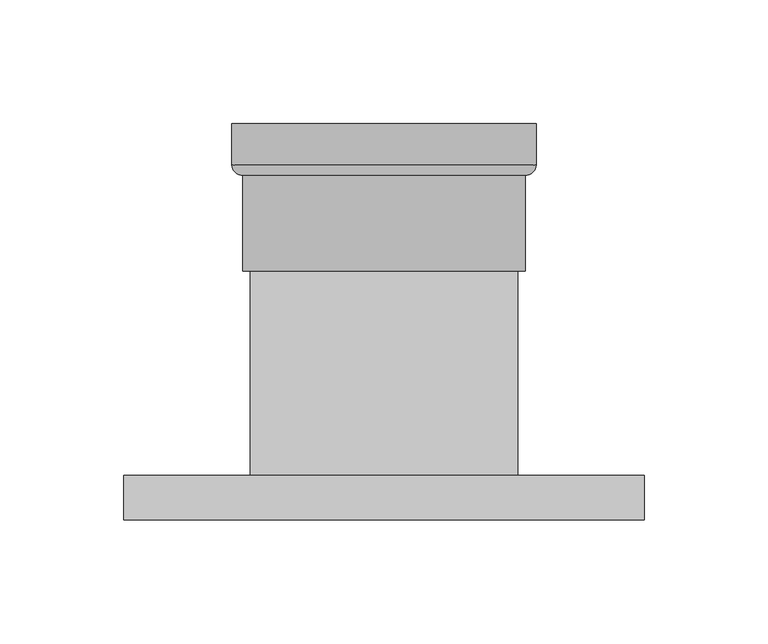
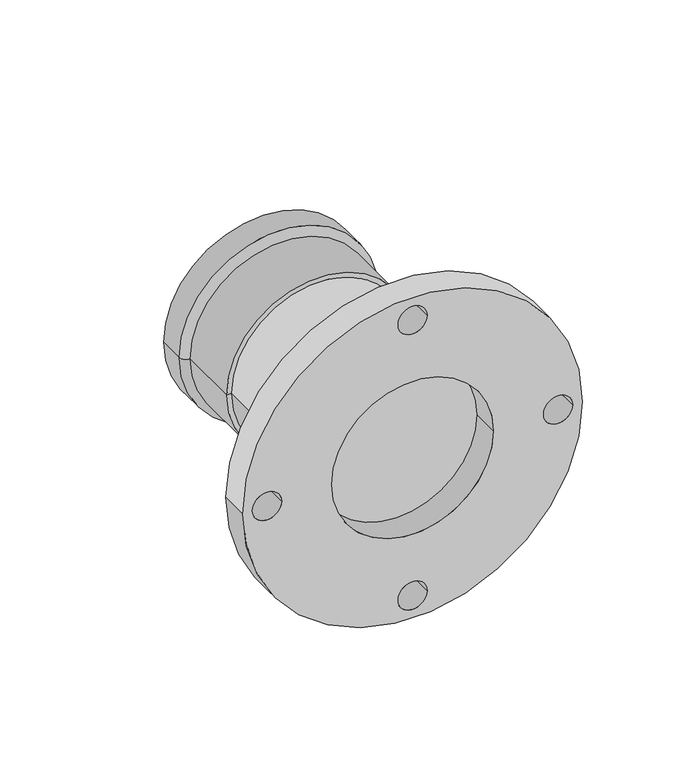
"""IFC4 building model written with IfcOpenShell, lengths in millimetres: pipe fitting geometry, VALTEC_VTi.980.I_Соединитель с переходом на фланец нержавеющая сталь : VTi.980.I."""

import ifcopenshell
import ifcopenshell.guid

model = None  # the IFC model being written
_history = None  # IfcOwnerHistory: only IFC2X3 demands one
_inside = {}  # id of a spatial element -> (the spatial element, [elements in it])
_under = {}  # id of a project, library or spatial element -> (it, [spatial elements below it])
_declared = {}  # id of a project -> (the project, [libraries it declares])
_typed = {}  # id of a type object -> (the type object, [elements of that type])
_made_of = {}  # id of a material, layer set ... -> (it, [elements and type objects made of it])


def new_model(schema):
    """Start an empty IFC model of exactly this schema.

    Asked for "IFC4X3", IfcOpenShell would pick the latest addendum, in which some entities
    have other attributes; the version numbers below select the first issue.
    IFC2X3 requires an IfcOwnerHistory on every rooted entity: one is made here for all.
    """
    global model, _history
    if schema == "IFC4X3":
        model = ifcopenshell.file(schema_version=(4, 3, 0, 0))
    else:
        model = ifcopenshell.file(schema=schema)
    _inside.clear()
    _under.clear()
    _declared.clear()
    _typed.clear()
    _made_of.clear()
    _history = None
    if model.schema == "IFC2X3":
        org = make("IfcOrganization", Name="unknown")
        user = make(
            "IfcPersonAndOrganization",
            ThePerson=make("IfcPerson", FamilyName="unknown"),
            TheOrganization=org,
        )
        app = make(
            "IfcApplication",
            ApplicationDeveloper=org,
            Version="unknown",
            ApplicationFullName="unknown",
            ApplicationIdentifier="unknown",
        )
        _history = make(
            "IfcOwnerHistory",
            OwningUser=user,
            OwningApplication=app,
            ChangeAction="ADDED",
            CreationDate=0,
        )
    return model


def make(cls, **values):
    """One entity of the class cls with the attributes given. An attribute that is None is left unset."""
    return model.create_entity(
        cls, **{name: value for name, value in values.items() if value is not None}
    )


def rooted(cls, **values):
    """An entity with a GlobalId (a new one), such as an element, a storey or a relation."""
    return make(cls, GlobalId=ifcopenshell.guid.new(), OwnerHistory=_history, **values)


def si_unit(unit_type, name, prefix=None):
    """IfcSIUnit, for example si_unit("LENGTHUNIT", "METRE", prefix="MILLI")."""
    return make("IfcSIUnit", UnitType=unit_type, Prefix=prefix, Name=name)


def assignment(units):
    """IfcUnitAssignment: the units of a project."""
    return None if units is None else make("IfcUnitAssignment", Units=units)


def point(xyz):
    """IfcCartesianPoint."""
    return None if xyz is None else make("IfcCartesianPoint", Coordinates=xyz)


def direction(xyz):
    """IfcDirection."""
    return None if xyz is None else make("IfcDirection", DirectionRatios=xyz)


def frame(location, z_axis=None, x_axis=None):
    """IfcAxis2Placement3D, a coordinate frame: its origin and axes. An axis left out is left unset."""
    return make(
        "IfcAxis2Placement3D",
        Location=point(location),
        Axis=direction(z_axis),
        RefDirection=direction(x_axis),
    )


def frame_2d(location, x_axis=None):
    """IfcAxis2Placement2D, a coordinate frame in the plane: its origin and x axis."""
    return make(
        "IfcAxis2Placement2D", Location=point(location), RefDirection=direction(x_axis)
    )


def origin():
    """The frame at (0, 0, 0) with its axes left unset."""
    return frame((0.0, 0.0, 0.0))


def origin_2d():
    """The frame at (0, 0) in the plane with its x axis left unset."""
    return frame_2d((0.0, 0.0))


def place(relative_to, where):
    """IfcLocalPlacement: puts the frame where relative to a parent placement (None: the world)."""
    return make(
        "IfcLocalPlacement", PlacementRelTo=relative_to, RelativePlacement=where
    )


def context(
    kind, dimensions, precision=None, world=None, true_north=None, identifier=None
):
    """IfcGeometricRepresentationContext, for example the 3D "Model" context."""
    return make(
        "IfcGeometricRepresentationContext",
        ContextIdentifier=identifier,
        ContextType=kind,
        CoordinateSpaceDimension=dimensions,
        Precision=precision,
        WorldCoordinateSystem=world,
        TrueNorth=true_north,
    )


def project(units=None, contexts=None):
    """IfcProject with its units and contexts."""
    return rooted(
        "IfcProject",
        Name="project",
        RepresentationContexts=contexts,
        UnitsInContext=assignment(units),
    )


def spatial(cls, under=None, at=None, **own):
    """A site, building, storey or space (cls), placed at a placement, below another one or the project."""
    s = rooted(cls, ObjectPlacement=at, **own)
    if under is not None:
        _under.setdefault(under.id(), (under, []))[1].append(s)
    return s


def polyline(points):
    """IfcPolyline through the points."""
    return make("IfcPolyline", Points=[point(p) for p in points])


def circle_curve(where, radius):
    """IfcCircle in the frame where."""
    return make("IfcCircle", Position=where, Radius=radius)


def ellipse_curve(where, semi_axis1, semi_axis2):
    """IfcEllipse in the frame where."""
    return make(
        "IfcEllipse", Position=where, SemiAxis1=semi_axis1, SemiAxis2=semi_axis2
    )


def trimmed(basis, trim1, trim2, sense, master):
    """IfcTrimmedCurve: the piece of a basis curve between two trims."""
    return make(
        "IfcTrimmedCurve",
        BasisCurve=basis,
        Trim1=trim1,
        Trim2=trim2,
        SenseAgreement=sense,
        MasterRepresentation=master,
    )


def segment(curve, same_sense, transition):
    """IfcCompositeCurveSegment."""
    return make(
        "IfcCompositeCurveSegment",
        Transition=transition,
        SameSense=same_sense,
        ParentCurve=curve,
    )


def composite_curve(segments, self_intersect=None):
    """IfcCompositeCurve: segments joined end to end."""
    return make("IfcCompositeCurve", Segments=segments, SelfIntersect=self_intersect)


def outline(outer, holes=None, kind="AREA"):
    """IfcArbitraryClosedProfileDef: a profile drawn as a closed curve; with holes, ...WithVoids."""
    if holes is None:
        return make("IfcArbitraryClosedProfileDef", ProfileType=kind, OuterCurve=outer)
    return make(
        "IfcArbitraryProfileDefWithVoids",
        ProfileType=kind,
        OuterCurve=outer,
        InnerCurves=holes,
    )


def extrude(swept, where, along, depth):
    """IfcExtrudedAreaSolid: the profile swept, set in the frame where, extruded along a direction by depth."""
    return make(
        "IfcExtrudedAreaSolid",
        SweptArea=swept,
        Position=where,
        ExtrudedDirection=direction(along),
        Depth=depth,
    )


def shape(context_of_items, identifier, shape_type, items):
    """IfcShapeRepresentation: the items that make up one representation, for example the "Body"."""
    return make(
        "IfcShapeRepresentation",
        ContextOfItems=context_of_items,
        RepresentationIdentifier=identifier,
        RepresentationType=shape_type,
        Items=items,
    )


def source(mapping_origin, context_of_items, identifier, shape_type, items):
    """IfcRepresentationMap: a shape defined once, which mapped items show again and again."""
    return make(
        "IfcRepresentationMap",
        MappingOrigin=mapping_origin,
        MappedRepresentation=shape(context_of_items, identifier, shape_type, items),
    )


def transform(
    local_origin,
    x_axis=None,
    y_axis=None,
    z_axis=None,
    scale=None,
    scale2=None,
    scale3=None,
    uniform=True,
):
    """IfcCartesianTransformationOperator3D, or its non-uniform kind. x_axis, y_axis, z_axis: its Axis1, 2, 3."""
    if uniform:
        return make(
            "IfcCartesianTransformationOperator3D",
            Axis1=direction(x_axis),
            Axis2=direction(y_axis),
            LocalOrigin=point(local_origin),
            Scale=scale,
            Axis3=direction(z_axis),
        )
    return make(
        "IfcCartesianTransformationOperator3DnonUniform",
        Axis1=direction(x_axis),
        Axis2=direction(y_axis),
        LocalOrigin=point(local_origin),
        Scale=scale,
        Axis3=direction(z_axis),
        Scale2=scale2,
        Scale3=scale3,
    )


def mapped(mapping_source, mapping_target):
    """IfcMappedItem: shows the shape of a source again, moved by a transform."""
    return make(
        "IfcMappedItem", MappingSource=mapping_source, MappingTarget=mapping_target
    )


def made_of(thing, what):
    """Note that an element or type object is made of a material, layer set ...; save() writes the relation."""
    if what is not None:
        _made_of.setdefault(what.id(), (what, []))[1].append(thing)
    return thing


def element(
    cls,
    number,
    at=None,
    inside=None,
    cuts=None,
    type_object=None,
    material=None,
    context=None,
    identifier="Body",
    shape_type=None,
    held_by="IfcProductDefinitionShape",
    body=None,
    shapes=None,
    **own,
):
    """One element of the class cls, such as IfcWall. Its Tag is "e" and its number.

    at: its placement. inside: the storey or other place that contains it. cuts: it is an
    opening in that element (IfcRelVoidsElement). A single representation is given by context,
    identifier, shape_type and body (its items); several are given by shapes. held_by: the class
    of the entity that holds the representations. save() writes the other relations.
    """
    e = rooted(cls, Tag="e%d" % number, ObjectPlacement=at, **own)
    if body is not None:
        shapes = [shape(context, identifier, shape_type, body)]
    if shapes is not None:
        e.Representation = make(held_by, Representations=shapes)
    if inside is not None:
        _inside.setdefault(inside.id(), (inside, []))[1].append(e)
    if cuts is not None:
        rooted(
            "IfcRelVoidsElement", RelatingBuildingElement=cuts, RelatedOpeningElement=e
        )
    if type_object is not None:
        _typed.setdefault(type_object.id(), (type_object, []))[1].append(e)
    return made_of(e, material)


def aggregate(whole, parts):
    """IfcRelAggregates: a whole, such as a stair, and the parts it consists of."""
    return rooted("IfcRelAggregates", RelatingObject=whole, RelatedObjects=parts)


def save(model, path):
    """Write the relations noted so far, then the file.

    IfcRelAggregates (storeys below a building ...), IfcRelContainedInSpatialStructure (elements
    in a storey), IfcRelDefinesByType, IfcRelAssociatesMaterial and IfcRelDeclares: one each for
    every whole, place, type object, material and project.
    """
    for whole, parts in _under.values():
        aggregate(whole, parts)
    for where, things in _inside.values():
        rooted(
            "IfcRelContainedInSpatialStructure",
            RelatedElements=things,
            RelatingStructure=where,
        )
    for kind, things in _typed.values():
        rooted("IfcRelDefinesByType", RelatedObjects=things, RelatingType=kind)
    for what, things in _made_of.values():
        rooted("IfcRelAssociatesMaterial", RelatedObjects=things, RelatingMaterial=what)
    for by, libraries in _declared.values():
        rooted("IfcRelDeclares", RelatingContext=by, RelatedDefinitions=libraries)
    model.write(path)


def plane_surface(at):
    """IfcPlane: the flat surface through the origin of the frame at, square to its z axis."""
    return make("IfcPlane", Position=at)


def cylinder_surface(at, radius):
    """IfcCylindricalSurface: all points at the distance radius from the z axis of the frame at."""
    return make("IfcCylindricalSurface", Position=at, Radius=radius)


def revolved_surface(curve, axis_point, axis_direction):
    """IfcSurfaceOfRevolution: the curve turned about the line through axis_point along axis_direction."""
    return make(
        "IfcSurfaceOfRevolution",
        SweptCurve=make("IfcArbitraryOpenProfileDef", ProfileType="CURVE", Curve=curve),
        AxisPosition=make("IfcAxis1Placement", Location=point(axis_point), Axis=direction(axis_direction)),
    )


def advanced_brep(points, edges, surfaces, faces):
    """IfcAdvancedBrep: a solid bounded by faces that lie on surfaces and meet in shared edges.

    An edge is (start, end): straight between two places in points (the first is 0);
    or (start, end, curve); or (start, end, curve, False) where it runs against its curve.
    A face is (place in surfaces, loops), or (place, loops, False) where it looks against
    its surface's normal. A loop lists edges by number (the first is 1), with a minus sign
    where the edge is run from its end to its start. The first loop is the outer one.
    """
    corners = [point(p) for p in points]
    vertices = [make("IfcVertexPoint", VertexGeometry=c) for c in corners]
    made = []
    for start, end, *more in edges:
        made.append(
            make(
                "IfcEdgeCurve",
                EdgeStart=vertices[start],
                EdgeEnd=vertices[end],
                EdgeGeometry=more[0] if more else make("IfcPolyline", Points=[corners[start], corners[end]]),
                SameSense=more[1] if len(more) > 1 else True,
            )
        )
    hull = []
    for where, loops, *sense in faces:
        bounds = []
        for j, loop in enumerate(loops):
            ring = [make("IfcOrientedEdge", EdgeElement=made[abs(k) - 1], Orientation=k > 0) for k in loop]
            bounds.append(
                make(
                    "IfcFaceOuterBound" if j == 0 else "IfcFaceBound",
                    Bound=make("IfcEdgeLoop", EdgeList=ring),
                    Orientation=True,
                )
            )
        hull.append(make("IfcAdvancedFace", Bounds=bounds, FaceSurface=surfaces[where], SameSense=sense[0] if sense else True))
    return make("IfcAdvancedBrep", Outer=make("IfcClosedShell", CfsFaces=hull))


def pipe_fitting_db03251b(model_context):
    return source(origin(), model_context, "Body", "SolidModel", [
        advanced_brep(
        [(-54.0, 160.0, 0.0), (54.0, 160.0, 0.0), (61.5, 160.0, 0.0), (-61.5, 160.0, 0.0), (-54.0, 100.5, 0.0), (54.0, 100.5, 0.0), (-57.0, 100.5, 0.0), (57.0, 100.5, 0.0), (-57.0, 139.28, 0.0), (57.0, 139.28, 0.0), (-61.5, 143.3, 0.0), (61.5, 143.3, 0.0)],
        [
            (0, 1, circle_curve(frame((0.0, 160.0, 0.0), z_axis=(0.0, -1.0, 0.0), x_axis=(1.0, 0.0, 0.0)), 54.0)),
            (1, 2),
            (2, 3, circle_curve(frame((0.0, 160.0, 0.0), z_axis=(0.0, 1.0, 0.0), x_axis=(1.0, 0.0, 0.0)), 61.5)),
            (3, 0),
            (1, 0, circle_curve(frame((0.0, 160.0, 0.0), z_axis=(0.0, -1.0, 0.0), x_axis=(1.0, 0.0, 0.0)), 54.0)),
            (3, 2, circle_curve(frame((0.0, 160.0, 0.0), z_axis=(0.0, 1.0, 0.0), x_axis=(1.0, 0.0, 0.0)), 61.5)),
            (4, 5, circle_curve(frame((0.0, 100.5, 0.0), z_axis=(0.0, -1.0, 0.0), x_axis=(1.0, 0.0, 0.0)), 54.0)),
            (5, 1),
            (0, 4),
            (5, 4, circle_curve(frame((0.0, 100.5, 0.0), z_axis=(0.0, -1.0, 0.0), x_axis=(1.0, 0.0, 0.0)), 54.0)),
            (6, 7, circle_curve(frame((0.0, 100.5, 0.0), z_axis=(0.0, -1.0, 0.0), x_axis=(1.0, 0.0, 0.0)), 57.0)),
            (7, 5),
            (4, 6),
            (7, 6, circle_curve(frame((0.0, 100.5, 0.0), z_axis=(0.0, -1.0, 0.0), x_axis=(1.0, 0.0, 0.0)), 57.0)),
            (8, 9, circle_curve(frame((0.0, 139.28, 0.0), z_axis=(0.0, -1.0, 0.0), x_axis=(1.0, 0.0, 0.0)), 57.0)),
            (9, 7),
            (6, 8),
            (9, 8, circle_curve(frame((0.0, 139.28, 0.0), z_axis=(0.0, -1.0, 0.0), x_axis=(1.0, 0.0, 0.0)), 57.0)),
            (10, 11, circle_curve(frame((0.0, 143.3, 0.0), z_axis=(0.0, -1.0, 0.0), x_axis=(1.0, 0.0, 0.0)), 61.5)),
            (11, 9, circle_curve(frame((57.112345, 143.6828974, 0.0), z_axis=(0.0, 0.0, -1.0), x_axis=(0.0, -1.0, 0.0)), 4.4043305)),
            (8, 10, circle_curve(frame((-57.112345, 143.6828974, 0.0), z_axis=(0.0, 0.0, -1.0), x_axis=(0.0, -1.0, 0.0)), 4.4043305)),
            (11, 10, circle_curve(frame((0.0, 143.3, 0.0), z_axis=(0.0, -1.0, 0.0), x_axis=(1.0, 0.0, 0.0)), 61.5)),
            (2, 11),
            (10, 3),
        ],
        [
            plane_surface(frame((0.0, 160.0, 0.0), z_axis=(0.0, 1.0, 0.0), x_axis=(1.0, 0.0, 0.0))),
            revolved_surface(polyline([(54.0, 160.0, 0.0), (54.0, 100.5, 0.0)]), (0.0, 129.6806392, 0.0), (0.0, 1.0, 0.0)),
            plane_surface(frame((0.0, 100.5, 0.0), z_axis=(0.0, -1.0, 0.0), x_axis=(1.0, 0.0, 0.0))),
            cylinder_surface(frame((0.0, 129.6806392, 0.0), z_axis=(0.0, 1.0, 0.0), x_axis=(1.0, 0.0, 0.0)), 57.0),
            revolved_surface(trimmed(ellipse_curve(frame((57.112345, 143.6828974, 0.0), z_axis=(0.0, 0.0, 1.0), x_axis=(0.0, -1.0, 0.0)), 4.4043305, 4.4043305), [point((57.0, 139.28, 0.0))], [point((61.5, 143.3, 0.0))], True, "CARTESIAN"), (0.0, 129.6806392, 0.0), (0.0, 1.0, 0.0)),
            cylinder_surface(frame((0.0, 129.6806392, 0.0), z_axis=(0.0, 1.0, 0.0), x_axis=(1.0, 0.0, 0.0)), 61.5),
        ],
        [
            (0, [[1, 2, 3, 4]]),
            (0, [[5, -4, 6, -2]]),
            (1, [[7, 8, -1, 9]]),
            (1, [[10, -9, -5, -8]]),
            (2, [[11, 12, -7, 13]]),
            (2, [[14, -13, -10, -12]]),
            (3, [[15, 16, -11, 17]]),
            (3, [[18, -17, -14, -16]]),
            (4, [[19, 20, -15, 21]]),
            (4, [[22, -21, -18, -20]]),
            (5, [[-3, 23, -19, 24]]),
            (5, [[-6, -24, -22, -23]]),
        ],
    ),
        extrude(outline(composite_curve([segment(trimmed(circle_curve(origin_2d(), 54.0), [point((0.0, -54.0))], [point((0.0, 54.0))], False, "CARTESIAN"), True, "CONTINUOUS"), segment(trimmed(circle_curve(origin_2d(), 54.0), [point((0.0, 54.0))], [point((0.0, -54.0))], False, "CARTESIAN"), True, "CONTINUOUS")], self_intersect=False)), frame((0.0, 18.0, 0.0), z_axis=(0.0, 1.0, 0.0), x_axis=(0.0, 0.0, 1.0)), (0.0, 0.0, 1.0), 82.8),
        extrude(outline(composite_curve([segment(trimmed(circle_curve(origin_2d(), 105.0), [point((0.0, -105.0))], [point((0.0, 105.0))], False, "CARTESIAN"), True, "CONTINUOUS"), segment(trimmed(circle_curve(origin_2d(), 105.0), [point((0.0, 105.0))], [point((0.0, -105.0))], False, "CARTESIAN"), True, "CONTINUOUS")], self_intersect=False), holes=[composite_curve([segment(trimmed(circle_curve(frame_2d((0.0, -90.0)), 9.0), [point((0.0, -99.0))], [point((0.0, -81.0))], True, "CARTESIAN"), True, "CONTINUOUS"), segment(trimmed(circle_curve(frame_2d((0.0, -90.0)), 9.0), [point((0.0, -81.0))], [point((0.0, -99.0))], True, "CARTESIAN"), True, "CONTINUOUS")], self_intersect=False), composite_curve([segment(trimmed(circle_curve(frame_2d((-90.0, 0.0)), 9.0), [point((-90.0, -9.0))], [point((-90.0, 9.0))], True, "CARTESIAN"), True, "CONTINUOUS"), segment(trimmed(circle_curve(frame_2d((-90.0, 0.0)), 9.0), [point((-90.0, 9.0))], [point((-90.0, -9.0))], True, "CARTESIAN"), True, "CONTINUOUS")], self_intersect=False), composite_curve([segment(trimmed(circle_curve(frame_2d((0.0, 90.0)), 9.0), [point((0.0, 81.0))], [point((0.0, 99.0))], True, "CARTESIAN"), True, "CONTINUOUS"), segment(trimmed(circle_curve(frame_2d((0.0, 90.0)), 9.0), [point((0.0, 99.0))], [point((0.0, 81.0))], True, "CARTESIAN"), True, "CONTINUOUS")], self_intersect=False), composite_curve([segment(trimmed(circle_curve(frame_2d((90.0, 0.0)), 9.0), [point((90.0, -9.0))], [point((90.0, 9.0))], True, "CARTESIAN"), True, "CONTINUOUS"), segment(trimmed(circle_curve(frame_2d((90.0, 0.0)), 9.0), [point((90.0, 9.0))], [point((90.0, -9.0))], True, "CARTESIAN"), True, "CONTINUOUS")], self_intersect=False), composite_curve([segment(trimmed(circle_curve(origin_2d(), 50.0), [point((0.0, -50.0))], [point((0.0, 50.0))], True, "CARTESIAN"), True, "CONTINUOUS"), segment(trimmed(circle_curve(origin_2d(), 50.0), [point((0.0, 50.0))], [point((0.0, -50.0))], True, "CARTESIAN"), True, "CONTINUOUS")], self_intersect=False)]), frame((0.0, 0.0, 0.0), z_axis=(0.0, 1.0, 0.0), x_axis=(0.0, 0.0, 1.0)), (0.0, 0.0, 1.0), 18.0),
    ])


if __name__ == "__main__":
    model = new_model("IFC4")
    model_context = context("Model", 3, world=origin())
    ifc_project = project(units=[si_unit("LENGTHUNIT", "METRE", prefix="MILLI")], contexts=[model_context])
    site = spatial("IfcSite", under=ifc_project)
    building = spatial("IfcBuilding", under=site)
    placement = place(None, origin())
    pipe_fitting_shape = pipe_fitting_db03251b(model_context)
    element("IfcPipeFitting", 1, ObjectType="VALTEC_VTi.980.I_Соединитель с переходом на фланец нержавеющая сталь : VTi.980.I", at=placement, inside=building, context=model_context, shape_type="MappedRepresentation", body=[
        mapped(pipe_fitting_shape, transform((0.0, 0.0, 0.0), x_axis=(1.0, 0.0, 0.0), y_axis=(0.0, 1.0, 0.0), z_axis=(0.0, 0.0, 1.0))),
    ])
    save(model, "model.ifc")
